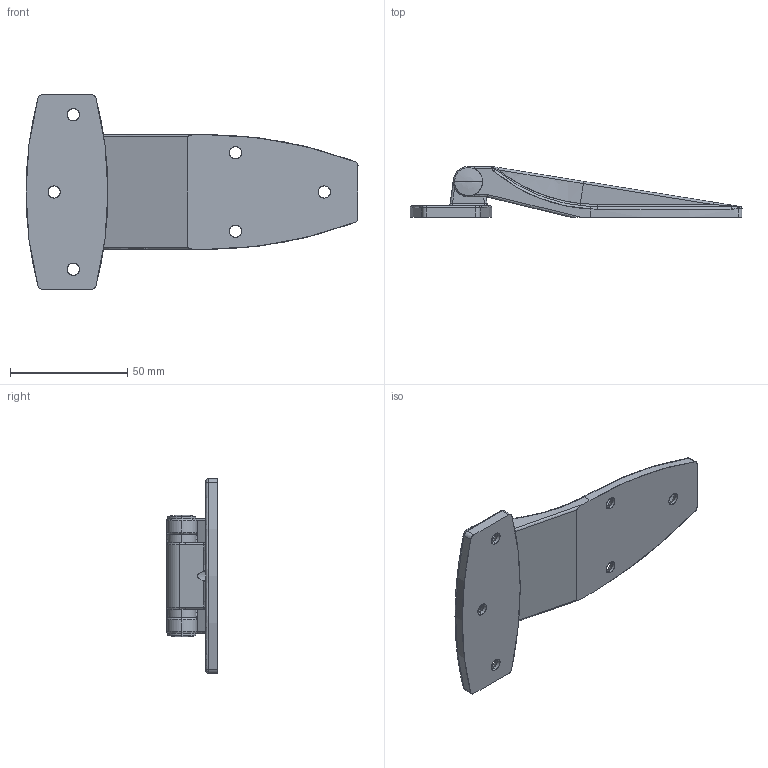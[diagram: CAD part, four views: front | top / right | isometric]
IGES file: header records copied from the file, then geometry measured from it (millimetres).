
Start section: SolidWorks IGES file using analytic representation for surfaces
Bounding box: 141.8 x 21.7 x 83 mm (x, y, z)
Surface area: 22486.2 mm2 (no closed solid volume)
Topology: 0 solids, 0 shells, 201 faces, 2053 edges, 2049 vertices
Faces by surface type: revolution 108, bspline 93
